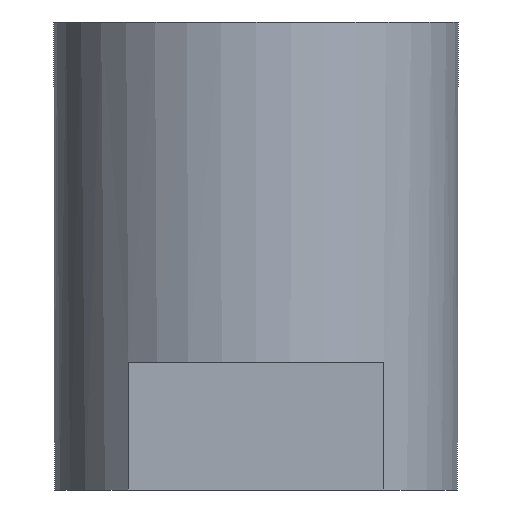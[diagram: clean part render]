
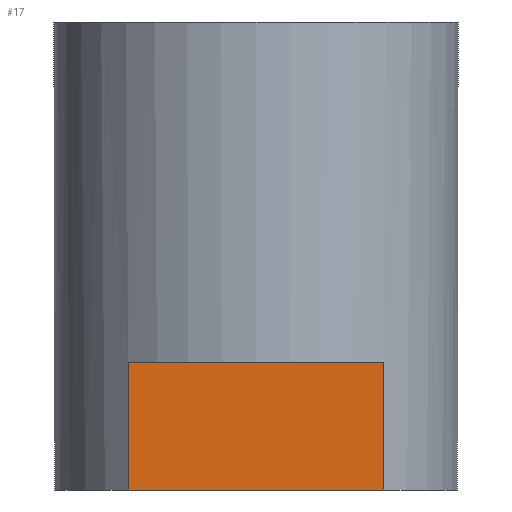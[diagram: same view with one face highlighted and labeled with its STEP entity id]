
A CAD part, left-side view. The second image highlights one B-rep face of the part: STEP entity #17.
In plain terms, the highlighted planar face has unit normal (-1, 0, 0).
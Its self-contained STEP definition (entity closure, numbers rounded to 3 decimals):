
#17 = ADVANCED_FACE('',(#18),#32,.F.);
#18 = FACE_BOUND('',#19,.F.);
#19 = EDGE_LOOP('',(#20,#55,#83,#111));
#20 = ORIENTED_EDGE('',*,*,#21,.F.);
#21 = EDGE_CURVE('',#22,#24,#26,.T.);
#22 = VERTEX_POINT('',#23);
#23 = CARTESIAN_POINT('',(-30.,-6.,0.));
#24 = VERTEX_POINT('',#25);
#25 = CARTESIAN_POINT('',(-30.,-6.,6.));
#26 = SURFACE_CURVE('',#27,(#31,#43),.PCURVE_S1.);
#27 = LINE('',#28,#29);
#28 = CARTESIAN_POINT('',(-30.,-6.,0.));
#29 = VECTOR('',#30,1.);
#30 = DIRECTION('',(0.,0.,1.));
#31 = PCURVE('',#32,#37);
#32 = PLANE('',#33);
#33 = AXIS2_PLACEMENT_3D('',#34,#35,#36);
#34 = CARTESIAN_POINT('',(-30.,-6.,0.));
#35 = DIRECTION('',(1.,0.,-0.));
#36 = DIRECTION('',(0.,0.,1.));
#37 = DEFINITIONAL_REPRESENTATION('',(#38),#42);
#38 = LINE('',#39,#40);
#39 = CARTESIAN_POINT('',(0.,0.));
#40 = VECTOR('',#41,1.);
#41 = DIRECTION('',(1.,0.));
#42 = ( GEOMETRIC_REPRESENTATION_CONTEXT(2) 
PARAMETRIC_REPRESENTATION_CONTEXT() REPRESENTATION_CONTEXT('2D SPACE',''
  ) );
#43 = PCURVE('',#44,#49);
#44 = PLANE('',#45);
#45 = AXIS2_PLACEMENT_3D('',#46,#47,#48);
#46 = CARTESIAN_POINT('',(-30.,-6.,0.));
#47 = DIRECTION('',(-0.,1.,0.));
#48 = DIRECTION('',(0.,0.,1.));
#49 = DEFINITIONAL_REPRESENTATION('',(#50),#54);
#50 = LINE('',#51,#52);
#51 = CARTESIAN_POINT('',(0.,0.));
#52 = VECTOR('',#53,1.);
#53 = DIRECTION('',(1.,0.));
#54 = ( GEOMETRIC_REPRESENTATION_CONTEXT(2) 
PARAMETRIC_REPRESENTATION_CONTEXT() REPRESENTATION_CONTEXT('2D SPACE',''
  ) );
#55 = ORIENTED_EDGE('',*,*,#56,.T.);
#56 = EDGE_CURVE('',#22,#57,#59,.T.);
#57 = VERTEX_POINT('',#58);
#58 = CARTESIAN_POINT('',(-30.,6.,0.));
#59 = SURFACE_CURVE('',#60,(#64,#71),.PCURVE_S1.);
#60 = LINE('',#61,#62);
#61 = CARTESIAN_POINT('',(-30.,-6.,0.));
#62 = VECTOR('',#63,1.);
#63 = DIRECTION('',(-0.,1.,0.));
#64 = PCURVE('',#32,#65);
#65 = DEFINITIONAL_REPRESENTATION('',(#66),#70);
#66 = LINE('',#67,#68);
#67 = CARTESIAN_POINT('',(0.,0.));
#68 = VECTOR('',#69,1.);
#69 = DIRECTION('',(0.,-1.));
#70 = ( GEOMETRIC_REPRESENTATION_CONTEXT(2) 
PARAMETRIC_REPRESENTATION_CONTEXT() REPRESENTATION_CONTEXT('2D SPACE',''
  ) );
#71 = PCURVE('',#72,#77);
#72 = PLANE('',#73);
#73 = AXIS2_PLACEMENT_3D('',#74,#75,#76);
#74 = CARTESIAN_POINT('',(-30.,-6.,0.));
#75 = DIRECTION('',(0.,0.,1.));
#76 = DIRECTION('',(1.,0.,-0.));
#77 = DEFINITIONAL_REPRESENTATION('',(#78),#82);
#78 = LINE('',#79,#80);
#79 = CARTESIAN_POINT('',(0.,0.));
#80 = VECTOR('',#81,1.);
#81 = DIRECTION('',(0.,1.));
#82 = ( GEOMETRIC_REPRESENTATION_CONTEXT(2) 
PARAMETRIC_REPRESENTATION_CONTEXT() REPRESENTATION_CONTEXT('2D SPACE',''
  ) );
#83 = ORIENTED_EDGE('',*,*,#84,.T.);
#84 = EDGE_CURVE('',#57,#85,#87,.T.);
#85 = VERTEX_POINT('',#86);
#86 = CARTESIAN_POINT('',(-30.,6.,6.));
#87 = SURFACE_CURVE('',#88,(#92,#99),.PCURVE_S1.);
#88 = LINE('',#89,#90);
#89 = CARTESIAN_POINT('',(-30.,6.,0.));
#90 = VECTOR('',#91,1.);
#91 = DIRECTION('',(0.,0.,1.));
#92 = PCURVE('',#32,#93);
#93 = DEFINITIONAL_REPRESENTATION('',(#94),#98);
#94 = LINE('',#95,#96);
#95 = CARTESIAN_POINT('',(0.,-12.));
#96 = VECTOR('',#97,1.);
#97 = DIRECTION('',(1.,0.));
#98 = ( GEOMETRIC_REPRESENTATION_CONTEXT(2) 
PARAMETRIC_REPRESENTATION_CONTEXT() REPRESENTATION_CONTEXT('2D SPACE',''
  ) );
#99 = PCURVE('',#100,#105);
#100 = PLANE('',#101);
#101 = AXIS2_PLACEMENT_3D('',#102,#103,#104);
#102 = CARTESIAN_POINT('',(-30.,6.,0.));
#103 = DIRECTION('',(-0.,1.,0.));
#104 = DIRECTION('',(0.,0.,1.));
#105 = DEFINITIONAL_REPRESENTATION('',(#106),#110);
#106 = LINE('',#107,#108);
#107 = CARTESIAN_POINT('',(0.,0.));
#108 = VECTOR('',#109,1.);
#109 = DIRECTION('',(1.,0.));
#110 = ( GEOMETRIC_REPRESENTATION_CONTEXT(2) 
PARAMETRIC_REPRESENTATION_CONTEXT() REPRESENTATION_CONTEXT('2D SPACE',''
  ) );
#111 = ORIENTED_EDGE('',*,*,#112,.F.);
#112 = EDGE_CURVE('',#24,#85,#113,.T.);
#113 = SURFACE_CURVE('',#114,(#118,#125),.PCURVE_S1.);
#114 = LINE('',#115,#116);
#115 = CARTESIAN_POINT('',(-30.,-6.,6.));
#116 = VECTOR('',#117,1.);
#117 = DIRECTION('',(-0.,1.,0.));
#118 = PCURVE('',#32,#119);
#119 = DEFINITIONAL_REPRESENTATION('',(#120),#124);
#120 = LINE('',#121,#122);
#121 = CARTESIAN_POINT('',(6.,0.));
#122 = VECTOR('',#123,1.);
#123 = DIRECTION('',(0.,-1.));
#124 = ( GEOMETRIC_REPRESENTATION_CONTEXT(2) 
PARAMETRIC_REPRESENTATION_CONTEXT() REPRESENTATION_CONTEXT('2D SPACE',''
  ) );
#125 = PCURVE('',#126,#131);
#126 = PLANE('',#127);
#127 = AXIS2_PLACEMENT_3D('',#128,#129,#130);
#128 = CARTESIAN_POINT('',(-30.,-6.,6.));
#129 = DIRECTION('',(0.,0.,1.));
#130 = DIRECTION('',(1.,0.,-0.));
#131 = DEFINITIONAL_REPRESENTATION('',(#132),#136);
#132 = LINE('',#133,#134);
#133 = CARTESIAN_POINT('',(0.,0.));
#134 = VECTOR('',#135,1.);
#135 = DIRECTION('',(0.,1.));
#136 = ( GEOMETRIC_REPRESENTATION_CONTEXT(2) 
PARAMETRIC_REPRESENTATION_CONTEXT() REPRESENTATION_CONTEXT('2D SPACE',''
  ) );
